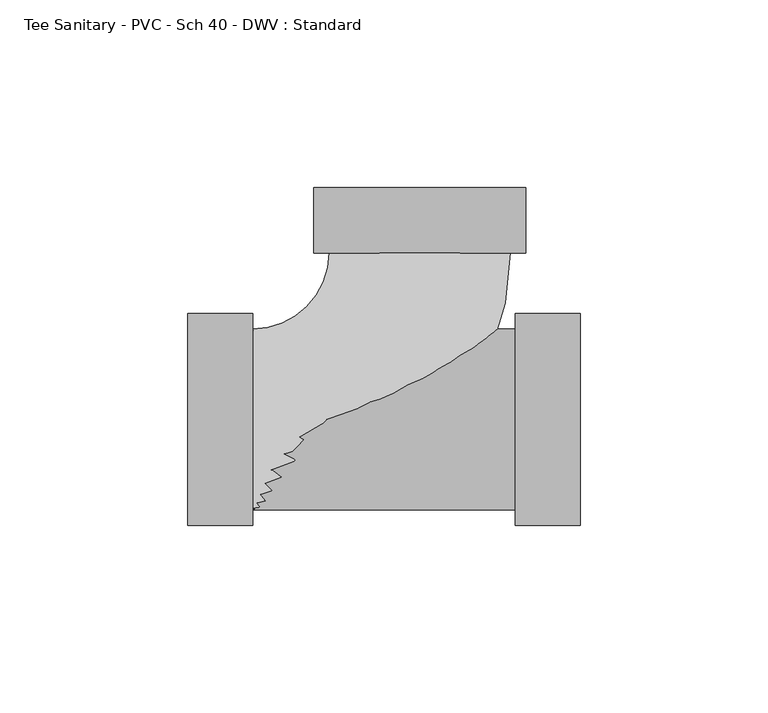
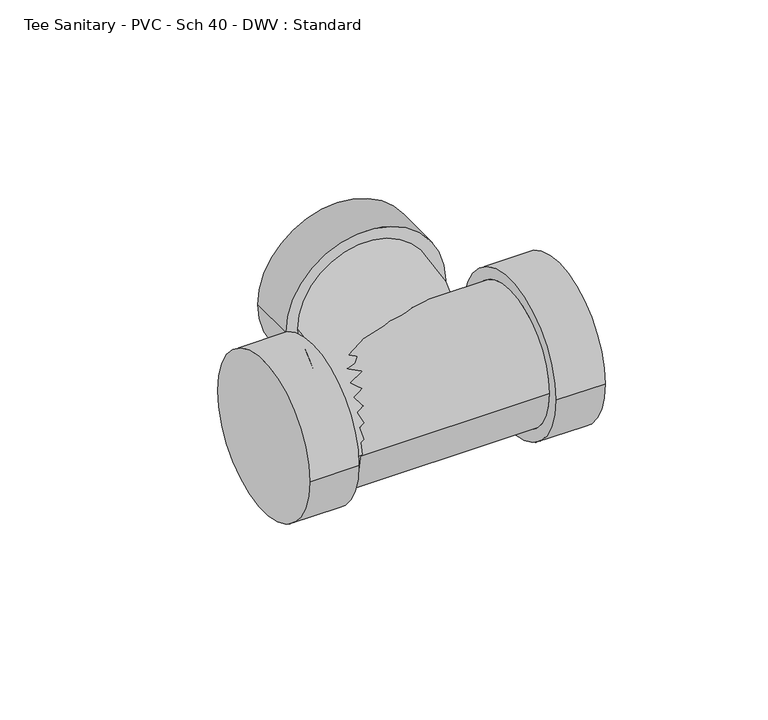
"""IFC4 building model written with IfcOpenShell, lengths in millimetres: pipe fitting geometry, Tee Sanitary - PVC - Sch 40 - DWV : Standard."""

from ifc_helpers import new_model, si_unit, point, frame, origin, place, context, project, spatial, circle_curve, ellipse_curve, trimmed, source, transform, mapped, element, save
from ifc_brep_helpers import plane_surface, cylinder_surface, revolved_surface, advanced_brep


def tee_sanitary_pvc_sch_40_dwv_standard_70a8f0c3(model_context):
    return source(origin(), model_context, "Body", "AdvancedBrep", [
        advanced_brep(
        [(-44.45, 24.13, 0.0), (-44.45, -24.13, 0.0), (24.13, 44.45, 0.0), (-24.13, 44.45, 0.0), (28.2829, 61.8998, 0.0), (-28.2829, 61.8998, 0.0), (28.2829, 44.45, 0.0), (-28.2829, 44.45, 0.0)],
        [
            (0, 1, circle_curve(frame((-44.45, 0.0, 0.0), z_axis=(-1.0, 0.0, 0.0), x_axis=(0.0, -1.0, 0.0)), 24.13)),
            (1, 0, circle_curve(frame((-44.45, 0.0, 0.0), z_axis=(-1.0, 0.0, 0.0), x_axis=(0.0, -1.0, 0.0)), 24.13)),
            (1, 2, circle_curve(frame((-44.45, 44.45, 0.0), z_axis=(0.0, 0.0, 1.0), x_axis=(0.0, -1.0, 0.0)), 68.58)),
            (2, 3, circle_curve(frame((0.0, 44.45, 0.0), z_axis=(0.0, -1.0, 0.0), x_axis=(1.0, 0.0, 0.0)), 24.13)),
            (3, 0, circle_curve(frame((-44.45, 44.45, 0.0), z_axis=(0.0, 0.0, -1.0), x_axis=(0.0, -1.0, 0.0)), 20.32)),
            (3, 2, circle_curve(frame((0.0, 44.45, 0.0), z_axis=(-1.4531766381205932e-12, -1.0, 0.0), x_axis=(1.0, -1.4531766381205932e-12, 0.0)), 24.13)),
            (4, 5, circle_curve(frame((0.0, 61.8998, 0.0), z_axis=(0.0, 1.0, 0.0), x_axis=(-1.0, 0.0, 0.0)), 28.2829)),
            (5, 4, circle_curve(frame((0.0, 61.8998, 0.0), z_axis=(0.0, 1.0, 0.0), x_axis=(-1.0, 0.0, 0.0)), 28.2829)),
            (6, 7, circle_curve(frame((0.0, 44.45, 0.0), z_axis=(0.0, -1.0, 0.0), x_axis=(-1.0, 0.0, 0.0)), 28.2829)),
            (7, 6, circle_curve(frame((0.0, 44.45, 0.0), z_axis=(0.0, -1.0, 0.0), x_axis=(-1.0, 0.0, 0.0)), 28.2829)),
            (5, 7),
            (6, 4),
        ],
        [
            plane_surface(frame((-44.45, 0.0, 0.0), z_axis=(-1.0, 0.0, 0.0), x_axis=(0.0, 0.0, 1.0))),
            revolved_surface(trimmed(ellipse_curve(frame((-44.45, 0.0, 0.0), z_axis=(1.0, 0.0, 0.0), x_axis=(0.0, -1.0, 0.0)), 24.13, 24.13), [point((-44.45, 24.13, 0.0))], [point((-44.45, -24.13, 0.0))], True, "CARTESIAN"), (-44.45, 44.45, 0.0), (0.0, 0.0, -1.0)),
            revolved_surface(trimmed(ellipse_curve(frame((-44.45, 0.0, 0.0), z_axis=(1.0, 0.0, 0.0), x_axis=(0.0, -1.0, 0.0)), 24.13, 24.13), [point((-44.45, -24.13, 0.0))], [point((-44.45, 24.13, 0.0))], True, "CARTESIAN"), (-44.45, 44.45, 0.0), (0.0, 0.0, -1.0)),
            plane_surface(frame((0.0, 61.8998, 0.0), z_axis=(0.0, 1.0, 0.0), x_axis=(0.0, 0.0, 1.0))),
            plane_surface(frame((0.0, 44.45, 0.0), z_axis=(0.0, -1.0, 0.0), x_axis=(0.0, 0.0, 1.0))),
            cylinder_surface(frame((0.0, 61.8998, 0.0), z_axis=(0.0, 1.0, 0.0), x_axis=(-1.0, 0.0, 0.0)), 28.2829),
        ],
        [
            (0, [[1, 2]]),
            (1, [[3, 4, 5, -2]]),
            (2, [[-5, 6, -3, -1]]),
            (3, [[7, 8]]),
            (4, [[9, 10], [-6, -4]]),
            (5, [[11, -9, 12, -8]]),
            (5, [[-12, -10, -11, -7]]),
        ],
    ),
        advanced_brep(
        [(-44.45, 24.13, 0.0), (-44.45, -24.13, 0.0), (25.4, -24.13, 0.0), (25.4, 24.13, 0.0), (25.4, 28.2829, 0.0), (25.4, -28.2829, 0.0), (42.8498, 28.2829, 0.0), (42.8498, -28.2829, 0.0), (-61.8998, 28.2829, 0.0), (-61.8998, -28.2829, 0.0), (-44.45, 28.2829, 0.0), (-44.45, -28.2829, 0.0)],
        [
            (0, 1, circle_curve(frame((-44.45, 0.0, 0.0), z_axis=(1.0, 0.0, 0.0), x_axis=(0.0, -1.0, 0.0)), 24.13)),
            (1, 2),
            (2, 3, circle_curve(frame((25.4, 0.0, 0.0), z_axis=(-1.0, 0.0, 0.0), x_axis=(0.0, -1.0, 0.0)), 24.13)),
            (3, 0),
            (3, 2, circle_curve(frame((25.4, 0.0, 0.0), z_axis=(-1.0, 0.0, 0.0), x_axis=(0.0, -1.0, 0.0)), 24.13)),
            (1, 0, circle_curve(frame((-44.45, 0.0, 0.0), z_axis=(1.0, 0.0, 0.0), x_axis=(0.0, -1.0, 0.0)), 24.13)),
            (4, 5, circle_curve(frame((25.4, 0.0, 0.0), z_axis=(-1.0, 0.0, 0.0), x_axis=(0.0, -1.0, 0.0)), 28.2829)),
            (5, 4, circle_curve(frame((25.4, 0.0, 0.0), z_axis=(-1.0, 0.0, 0.0), x_axis=(0.0, -1.0, 0.0)), 28.2829)),
            (6, 7, circle_curve(frame((42.8498, 0.0, 0.0), z_axis=(1.0, 0.0, 0.0), x_axis=(0.0, -1.0, 0.0)), 28.2829)),
            (7, 6, circle_curve(frame((42.8498, 0.0, 0.0), z_axis=(1.0, 0.0, 0.0), x_axis=(0.0, -1.0, 0.0)), 28.2829)),
            (5, 7),
            (6, 4),
            (8, 9, circle_curve(frame((-61.8998, 0.0, 0.0), z_axis=(-1.0, 0.0, 0.0), x_axis=(0.0, -1.0, 0.0)), 28.2829)),
            (9, 8, circle_curve(frame((-61.8998, 0.0, 0.0), z_axis=(-1.0, 0.0, 0.0), x_axis=(0.0, -1.0, 0.0)), 28.2829)),
            (10, 11, circle_curve(frame((-44.45, 0.0, 0.0), z_axis=(1.0, 0.0, 0.0), x_axis=(0.0, -1.0, 0.0)), 28.2829)),
            (11, 10, circle_curve(frame((-44.45, 0.0, 0.0), z_axis=(1.0, 0.0, 0.0), x_axis=(0.0, -1.0, 0.0)), 28.2829)),
            (9, 11),
            (10, 8),
        ],
        [
            cylinder_surface(frame((-44.45, 0.0, 0.0), z_axis=(-1.0, 0.0, 0.0), x_axis=(0.0, -1.0, 0.0)), 24.13),
            plane_surface(frame((25.4, 0.0, 0.0), z_axis=(-1.0, 0.0, 0.0), x_axis=(0.0, 0.0, 1.0))),
            plane_surface(frame((42.8498, 0.0, 0.0), z_axis=(1.0, 0.0, 0.0), x_axis=(0.0, 0.0, 1.0))),
            cylinder_surface(frame((25.4, 0.0, 0.0), z_axis=(-1.0, 0.0, 0.0), x_axis=(0.0, -1.0, 0.0)), 28.2829),
            plane_surface(frame((-61.8998, 0.0, 0.0), z_axis=(-1.0, 0.0, 0.0), x_axis=(0.0, 0.0, 1.0))),
            plane_surface(frame((-44.45, 0.0, 0.0), z_axis=(1.0, 0.0, 0.0), x_axis=(0.0, 0.0, 1.0))),
            cylinder_surface(frame((-61.8998, 0.0, 0.0), z_axis=(-1.0, 0.0, 0.0), x_axis=(0.0, -1.0, 0.0)), 28.2829),
        ],
        [
            (0, [[1, 2, 3, 4]]),
            (0, [[5, -2, 6, -4]]),
            (1, [[7, 8], [-5, -3]]),
            (2, [[9, 10]]),
            (3, [[11, -9, 12, -8]]),
            (3, [[-12, -10, -11, -7]]),
            (4, [[13, 14]]),
            (5, [[15, 16], [-6, -1]]),
            (6, [[17, -15, 18, -14]]),
            (6, [[-18, -16, -17, -13]]),
        ],
    ),
    ])


if __name__ == "__main__":
    model = new_model("IFC4")
    model_context = context("Model", 3, world=origin())
    ifc_project = project(units=[si_unit("LENGTHUNIT", "METRE", prefix="MILLI")], contexts=[model_context])
    site = spatial("IfcSite", under=ifc_project)
    building = spatial("IfcBuilding", under=site)
    placement = place(None, origin())
    tee_sanitary_pvc_sch_40_dwv_standard_shape = tee_sanitary_pvc_sch_40_dwv_standard_70a8f0c3(model_context)
    element("IfcPipeFitting", 1, ObjectType="Tee Sanitary - PVC - Sch 40 - DWV : Standard", at=placement, inside=building, context=model_context, shape_type="MappedRepresentation", body=[
        mapped(tee_sanitary_pvc_sch_40_dwv_standard_shape, transform((0.0, 0.0, 0.0), x_axis=(1.0, 0.0, 0.0), y_axis=(0.0, 1.0, 0.0), z_axis=(0.0, 0.0, 1.0))),
    ])
    save(model, "model.ifc")
